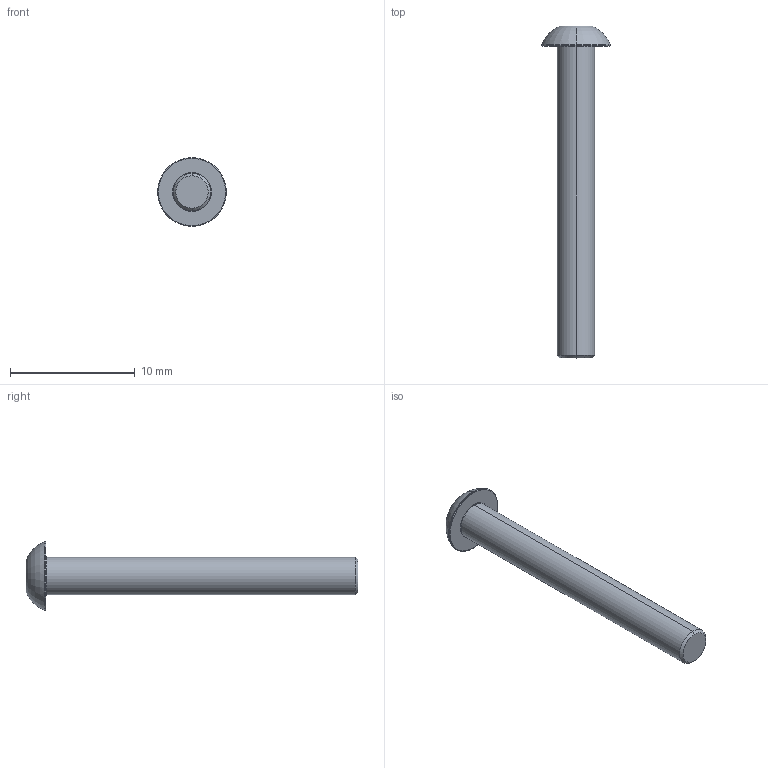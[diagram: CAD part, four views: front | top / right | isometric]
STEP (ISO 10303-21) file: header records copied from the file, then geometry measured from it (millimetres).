
FILE_DESCRIPTION (( 'STEP AP203' ), '1' );
FILE_NAME ('LGDD-304-M3x25.STEP', '2026-08-08T02:30:22', ( '' ), ( '' ), 'SwSTEP 2.0', 'SolidWorks 2020', '' );
FILE_SCHEMA (( 'CONFIG_CONTROL_DESIGN' ));
Length unit declared in the file: millimetre
Products named in the file (1): LGDD-304-M3x25
Bounding box: 5.5 x 26.6 x 5.5 mm (x, y, z)
Volume: 198.1 mm3; surface area: 302.7 mm2
Topology: 1 solids, 1 shells, 31 faces, 59 edges, 32 vertices
Faces by surface type: plane 10, cone 9, torus 8, cylinder 4
Entity records: 876 total; most frequent: CARTESIAN_POINT 166, DIRECTION 149, ORIENTED_EDGE 118, AXIS2_PLACEMENT_3D 65, EDGE_CURVE 59, CIRCLE 33, EDGE_LOOP 33, VERTEX_POINT 32
